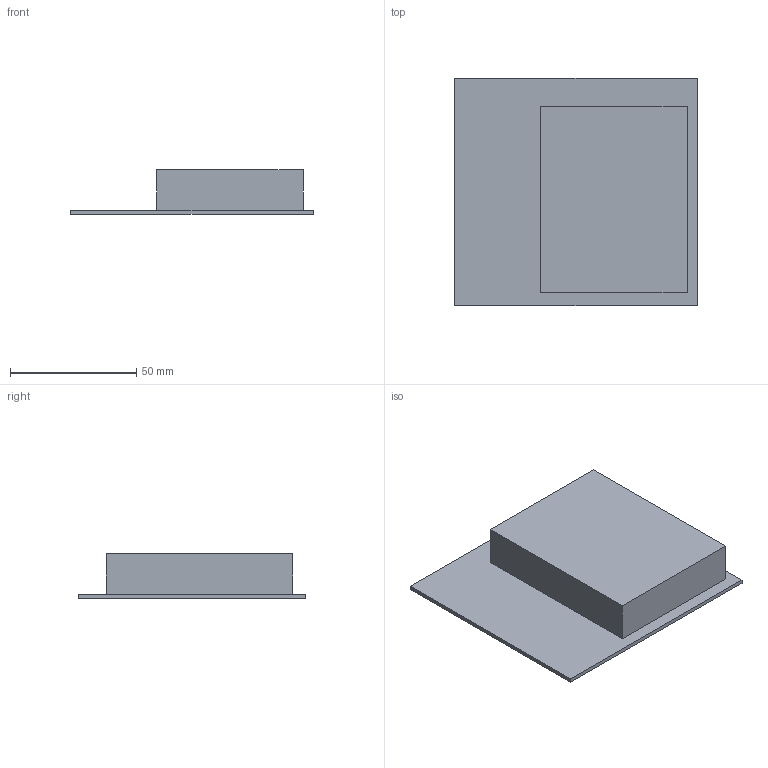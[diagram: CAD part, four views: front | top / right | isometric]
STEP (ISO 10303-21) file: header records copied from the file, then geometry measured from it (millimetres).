
FILE_DESCRIPTION(('Open CASCADE Model'),'2;1');
FILE_NAME('obc_board','2026-08-12T02:42:45',('Author'),('Open CASCADE'), 'Open CASCADE STEP processor 7.9','build123d','Unknown');
FILE_SCHEMA(('AUTOMOTIVE_DESIGN { 1 0 10303 214 1 1 1 1 }'));
Length unit declared in the file: millimetre
Products named in the file (3): obc_board; COMPOUND
Assembly tree (2 placements, depth 2):
  obc_board
    COMPOUND
    COMPOUND
Bounding box: 96 x 90 x 17.6 mm (x, y, z)
Volume: 82496 mm3; surface area: 30683.2 mm2
Topology: 2 solids, 2 shells, 12 faces, 24 edges, 16 vertices
Faces by surface type: plane 12
Entity records: 664 total; most frequent: CARTESIAN_POINT 103, DIRECTION 102, LINE 72, VECTOR 72, ORIENTED_EDGE 48, PCURVE 48, DEFINITIONAL_REPRESENTATION 48, EDGE_CURVE 24
